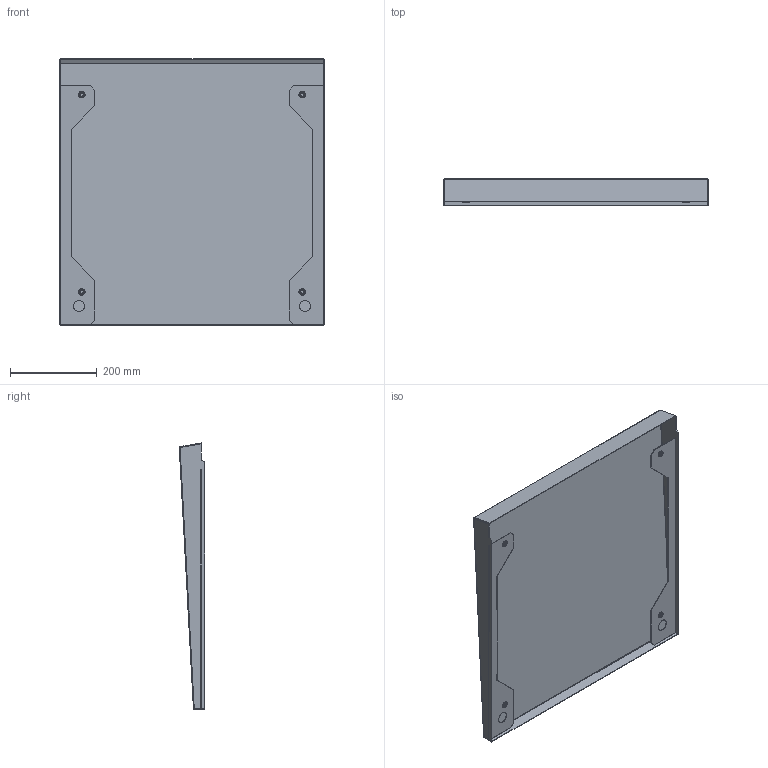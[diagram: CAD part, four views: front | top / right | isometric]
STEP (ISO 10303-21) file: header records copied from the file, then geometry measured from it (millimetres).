
FILE_DESCRIPTION (( 'STEP AP203' ), '1' );
FILE_NAME ('R 60.60 Cﾁ ﾊ鰀靍裲 鈞隆.STEP', '2012-11-21T04:24:43', ( 'system' ), ( '' ), 'SwSTEP 2.0', 'SolidWorks 2012', '' );
FILE_SCHEMA (( 'CONFIG_CONTROL_DESIGN' ));
Length unit declared in the file: millimetre
Products named in the file (1): R 60.60 Cﾁ ﾊ鰀靍裲 鈞隆
Bounding box: 610 x 58.97 x 613.57 mm (x, y, z)
Volume: 719066.7 mm3; surface area: 1032195.3 mm2
Topology: 5 solids, 5 shells, 152 faces, 354 edges, 224 vertices
Faces by surface type: cylinder 60, plane 60, torus 16, sphere 8, cone 8
Entity records: 4419 total; most frequent: DIRECTION 824, CARTESIAN_POINT 731, ORIENTED_EDGE 692, EDGE_CURVE 346, AXIS2_PLACEMENT_3D 329, VERTEX_POINT 220, EDGE_LOOP 188, CIRCLE 176
